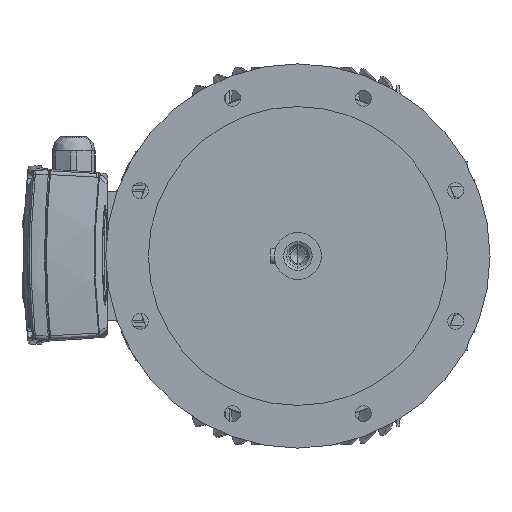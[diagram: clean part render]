
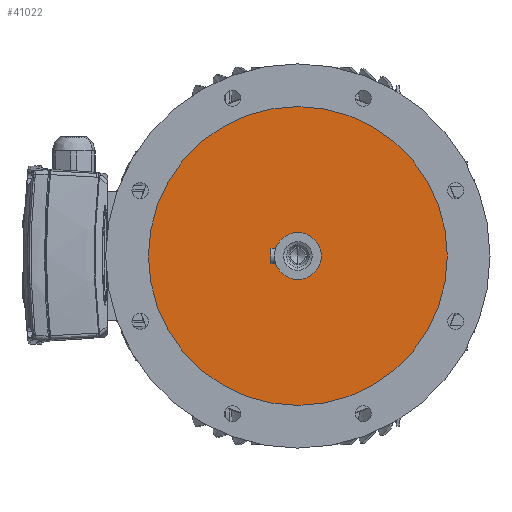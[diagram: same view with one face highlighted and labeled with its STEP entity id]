
A CAD part, left-side view. The second image highlights one B-rep face of the part: STEP entity #41022.
In plain terms, the highlighted planar face has unit normal (-1, 0, 0) as drawn and (0, 0, 1) by its records, which use the part's own axes.
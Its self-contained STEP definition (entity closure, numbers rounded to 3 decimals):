
#39667=CARTESIAN_POINT('',(0.,0.,41.));
#39668=DIRECTION('',(0.,0.,1.));
#39669=DIRECTION('',(1.,0.,0.));
#39670=AXIS2_PLACEMENT_3D('',#39667,#39668,#39669);
#39672=CARTESIAN_POINT('',(0.,0.,41.));
#39673=DIRECTION('',(0.,0.,1.));
#39674=DIRECTION('',(-1.,0.,0.));
#39675=AXIS2_PLACEMENT_3D('',#39672,#39673,#39674);
#39677=CARTESIAN_POINT('',(0.,0.,41.));
#39678=DIRECTION('',(0.,0.,1.));
#39679=DIRECTION('',(0.,-1.,0.));
#39680=AXIS2_PLACEMENT_3D('',#39677,#39678,#39679);
#39682=CARTESIAN_POINT('',(0.,0.,41.));
#39683=DIRECTION('',(0.,0.,1.));
#39684=DIRECTION('',(0.,1.,0.));
#39685=AXIS2_PLACEMENT_3D('',#39682,#39683,#39684);
#40216=CARTESIAN_POINT('',(175.,0.,41.));
#40218=VERTEX_POINT('',#40216);
#40220=CARTESIAN_POINT('',(-175.,0.,41.));
#40222=VERTEX_POINT('',#40220);
#40263=CARTESIAN_POINT('',(0.,-27.5,41.));
#40264=CARTESIAN_POINT('',(0.,27.5,41.));
#40265=VERTEX_POINT('',#40263);
#40266=VERTEX_POINT('',#40264);
#41007=CARTESIAN_POINT('',(0.,163.,41.));
#41008=DIRECTION('',(0.,0.,-1.));
#41009=DIRECTION('',(-1.,0.,0.));
#41010=AXIS2_PLACEMENT_3D('',#41007,#41008,#41009);
#41011=PLANE('',#41010);
#41012=ORIENTED_EDGE('',*,*,#41001,.F.);
#41013=ORIENTED_EDGE('',*,*,#40987,.F.);
#41014=EDGE_LOOP('',(#41012,#41013));
#41015=FACE_OUTER_BOUND('',#41014,.F.);
#41017=ORIENTED_EDGE('',*,*,#41016,.T.);
#41019=ORIENTED_EDGE('',*,*,#41018,.T.);
#41020=EDGE_LOOP('',(#41017,#41019));
#41021=FACE_BOUND('',#41020,.F.);
#39671=CIRCLE('',#39670,175.);
#39676=CIRCLE('',#39675,175.);
#39681=CIRCLE('',#39680,27.5);
#39686=CIRCLE('',#39685,27.5);
#40987=EDGE_CURVE('',#40222,#40218,#39676,.T.);
#41001=EDGE_CURVE('',#40218,#40222,#39671,.T.);
#41016=EDGE_CURVE('',#40265,#40266,#39681,.T.);
#41018=EDGE_CURVE('',#40266,#40265,#39686,.T.);
#41022=ADVANCED_FACE('',(#41015,#41021),#41011,.F.);
